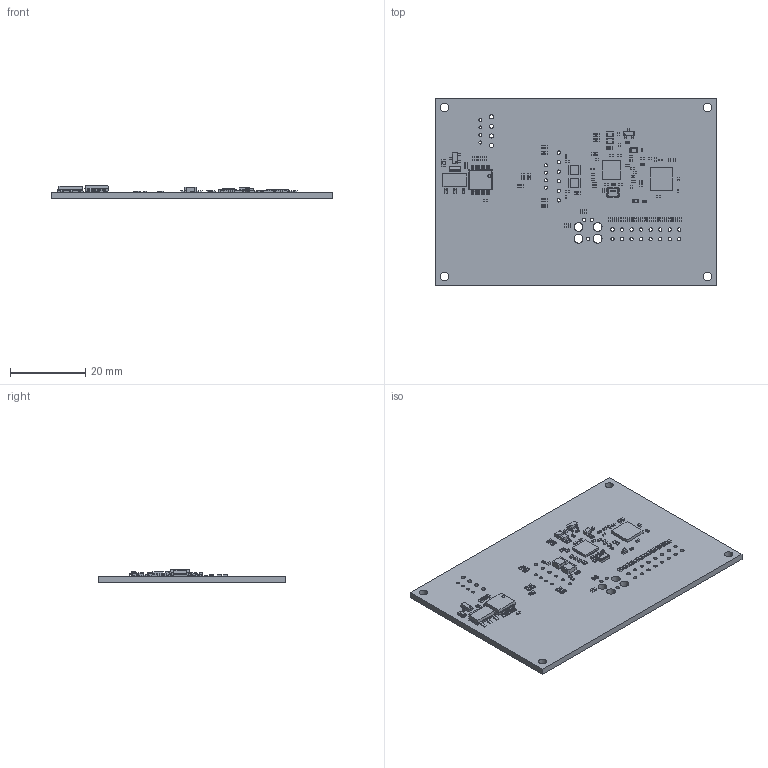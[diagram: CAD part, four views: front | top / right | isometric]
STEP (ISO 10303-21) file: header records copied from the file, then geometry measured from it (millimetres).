
FILE_DESCRIPTION(('Open CASCADE Model'),'2;1');
FILE_NAME('Open CASCADE Shape Model','2018-10-04T15:02:32',('Author'),( 'Open CASCADE'),'Open CASCADE STEP processor 6.8','Open CASCADE 6.8' ,'Unknown');
FILE_SCHEMA(('AUTOMOTIVE_DESIGN { 1 0 10303 214 1 1 1 1 }'));
Length unit declared in the file: millimetre
Products named in the file (119): PCB; Board; U1; User_Library-SSOP-16; User_Library-SSOP-16__X2_041A043E0440043F04430441_X0_; User_Library-SSOP-16__X2_041C04350442043A0430_X0_; User_Library-SSOP-16__X2_041D043E0436043A0430_X0_; U4; SOT-223-4; User_Library-SOT-223-4_SOT-223_Body; User_Library-SOT-223-4_SOT-223_Foot_1; User_Library-SOT-223-4_SOT-223_Foot_2; C57; User_Library-0603_SMD_Capacitor(1); C56; User_Library-0805_SMD_Capacitor; C55; cap_0402; C54; R28; User_Library-Chip_Resistor2; R27; C53; C52; C31; C33; C48; C36; R18; R17; C32; C34; C35; U3; 811784512; Extruded; C49; C37; C38; C39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
Assembly tree (209 placements, depth 4):
  PCB
    Board
    U1
      User_Library-SSOP-16
        User_Library-SSOP-16__X2_041A043E0440043F04430441_X0_
        User_Library-SSOP-16__X2_041C04350442043A0430_X0_
        User_Library-SSOP-16__X2_041D043E0436043A0430_X0_  x8
    U4
      SOT-223-4
        User_Library-SOT-223-4_SOT-223_Body
        User_Library-SOT-223-4_SOT-223_Foot_1  x3
        User_Library-SOT-223-4_SOT-223_Foot_2
    C57
      User_Library-0603_SMD_Capacitor(1)
    C56
      User_Library-0805_SMD_Capacitor
    C55
      cap_0402
    C54
      cap_0402
    R28
      User_Library-Chip_Resistor2
    R27
      User_Library-Chip_Resistor2
    C53
      cap_0402
    C52
      cap_0402
    C31
      cap_0402
    C33
      cap_0402
    C48
      cap_0402
    C36
      User_Library-0603_SMD_Capacitor(1)
    R18
      User_Library-Chip_Resistor2
    R17
      User_Library-Chip_Resistor2
    C32
      cap_0402
    C34
      cap_0402
    C35
      cap_0402
    U3
      811784512
        Extruded
    C49
      cap_0402
    C37
      cap_0402
    C38
      cap_0402
    C39
      cap_0402
    L5
      User_Library-Chip_Inductor_(3)
    R5
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Bounding box: 75 x 50 x 3.59 mm (x, y, z)
Volume: 6443.8 mm3; surface area: 8883.1 mm2
Topology: 156 solids, 156 shells, 5513 faces, 12853 edges, 7122 vertices
Faces by surface type: plane 2242, cylinder 1935, sphere 708, bspline 624, torus 4
Full cylindrical faces by diameter (mm): 0.8 x8, 0.889 x3, 0.9 x22, 1.1 x4, 2.2 x4, 2.362 x4
Entity records: 49440 total; most frequent: CARTESIAN_POINT 15169, ORIENTED_EDGE 5488, DIRECTION 5287, EDGE_CURVE 2744, LINE 1987, VECTOR 1987, VERTEX_POINT 1720, AXIS2_PLACEMENT_3D 1650
